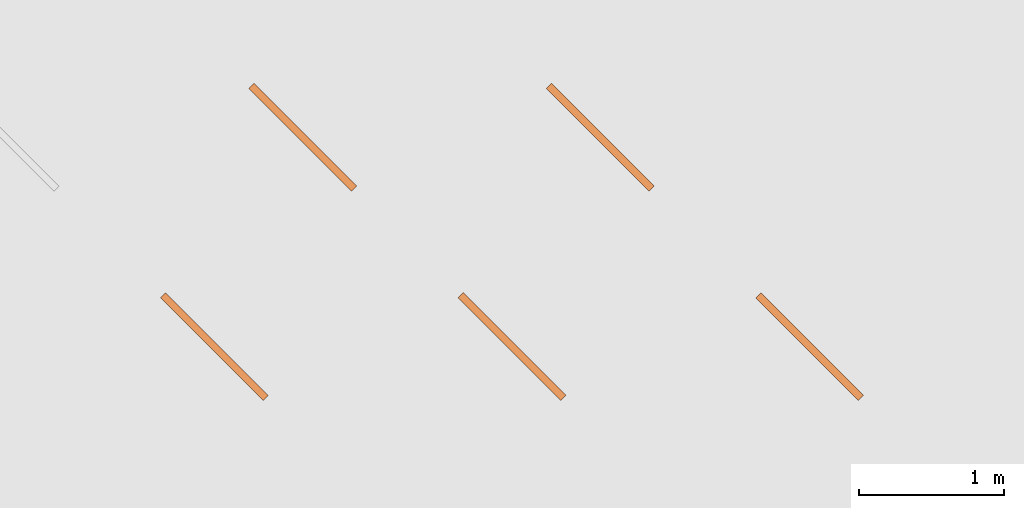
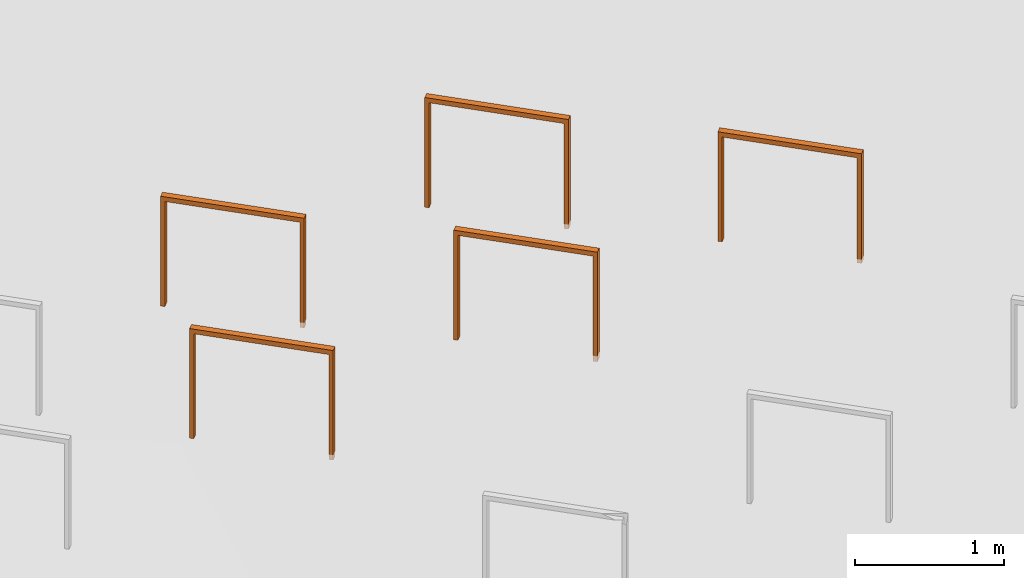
# One storey, part 229 of 246: 5 proxies.
"""IFC2X3 building model written with IfcOpenShell, lengths in millimetres."""

from ifc_helpers import new_model, entity, si_unit, converted_unit, derived_unit, money_unit, direction, frame, origin_with_axes, place, context, subcontext, project, spatial, faceted_brep, material, type_object, element, save


model = new_model("IFC2X3")

# Units and contexts
model_context = context("Model", 3, precision=0.01, world=origin_with_axes(), true_north=direction((0.0, 1.0)))
body_context = subcontext(model_context, "Body", "Model", "MODEL_VIEW")
ifc_project = project(units=[si_unit("LENGTHUNIT", "METRE", prefix="MILLI"), si_unit("AREAUNIT", "SQUARE_METRE"), si_unit("VOLUMEUNIT", "CUBIC_METRE"), converted_unit("PLANEANGLEUNIT", "DEGREE", entity("IfcPlaneAngleMeasure", 0.0174532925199), si_unit("PLANEANGLEUNIT", "RADIAN"), dimensions=[0, 0, 0, 0, 0, 0, 0]), si_unit("SOLIDANGLEUNIT", "STERADIAN"), money_unit("EUR"), converted_unit("TIMEUNIT", "Year", entity("IfcTimeMeasure", 31556926.0), si_unit("TIMEUNIT", "SECOND"), dimensions=[0, 0, 1, 0, 0, 0, 0]), si_unit("MASSUNIT", "GRAM", prefix="KILO"), si_unit("THERMODYNAMICTEMPERATUREUNIT", "DEGREE_CELSIUS"), si_unit("LUMINOUSINTENSITYUNIT", "LUMEN"), si_unit("ENERGYUNIT", "JOULE", prefix="MEGA"), derived_unit("THERMALCONDUCTANCEUNIT", [(si_unit("POWERUNIT", "WATT"), 1), (si_unit("LENGTHUNIT", "METRE"), -1), (si_unit("THERMODYNAMICTEMPERATUREUNIT", "KELVIN"), -1)]), derived_unit("SPECIFICHEATCAPACITYUNIT", [(si_unit("ENERGYUNIT", "JOULE"), 1), (si_unit("MASSUNIT", "GRAM", prefix="KILO"), -1), (si_unit("THERMODYNAMICTEMPERATUREUNIT", "KELVIN"), -1)]), derived_unit("MASSDENSITYUNIT", [(si_unit("MASSUNIT", "GRAM", prefix="KILO"), 1), (si_unit("VOLUMEUNIT", "CUBIC_METRE"), -1)])], contexts=[model_context])

# Site, building, storey
site_placement = place(None, origin_with_axes())
site = spatial("IfcSite", under=ifc_project, at=site_placement, Name="L.Koidula tn 11b", CompositionType="ELEMENT")
building_placement = place(site_placement, origin_with_axes())
building = spatial("IfcBuilding", under=site, at=building_placement, Name="Rakvere Riigigümnaasium", CompositionType="ELEMENT")
storey_placement = place(building_placement, origin_with_axes())
storey = spatial("IfcBuildingStorey", under=building, at=storey_placement, Name="1.korrus 0,00", CompositionType="ELEMENT", Elevation=0.0)

# Proxies
ifc_material = material(Name="teras_must")
building_element_proxy_type = type_object("IfcBuildingElementProxyType", Name="Rattahoidja 1000 x 900", PredefinedType="NOTDEFINED")
for number, where, z_axis, x_axis, name in (
    (1, (30922.6195898, 84962.1941633, 192.575484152), (0.0, 0.0, 1.0), (-0.707106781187, -0.707106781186, 0.0), "Ratas-01"),
    (2, (28872.0099244, 84962.1941633, 100.0), (0.0, 0.0, 1.0), (-0.707106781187, -0.707106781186, 0.0), "Ratas-02"),
    (3, (32365.0817101, 83519.732043, 280.957382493), (0.0, 0.0, 1.0), (-0.707106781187, -0.707106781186, 0.0), "Ratas-02"),
    (4, (30314.4720446, 83519.732043, 191.51394086), (0.0, 0.0, 1.0), (-0.707106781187, -0.707106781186, 0.0), "Ratas-01"),
    (5, (28263.8623792, 83519.732043, 102.070499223), (0.0, 0.0, 1.0), (-0.707106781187, -0.707106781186, 0.0), "Ratas-01"),
):
    element("IfcBuildingElementProxy", number, at=place(storey_placement, frame(where, z_axis=z_axis, x_axis=x_axis)), inside=storey, type_object=building_element_proxy_type, material=ifc_material, Name=name, context=body_context, shape_type="Brep", body=[
        faceted_brep([(0.0, 0.0, 0.0), (50.0, 0.0, 0.0), (50.0, -30.0, 0.0), (0.0, -30.0, 0.0), (0.0, 0.0, 900.0), (50.0, 0.0, 900.0), (50.0, -1000.0, 900.0), (50.0, -1000.0, 0.0), (50.0, -970.0, 0.0), (50.0, -970.0, 862.0), (50.0, -30.0, 862.0), (0.0, -30.0, 862.0), (0.0, -970.0, 862.0), (0.0, -970.0, 0.0), (0.0, -1000.0, 0.0), (0.0, -1000.0, 900.0)], [[[0, 1, 2, 3]], [[4, 5, 1, 0]], [[2, 1, 5, 6, 7, 8, 9, 10]], [[3, 2, 10, 11]], [[4, 0, 3, 11, 12, 13, 14, 15]], [[15, 6, 5, 4]], [[14, 7, 6, 15]], [[13, 8, 7, 14]], [[12, 9, 8, 13]], [[11, 10, 9, 12]]]),
    ])

save(model, "model.ifc")
